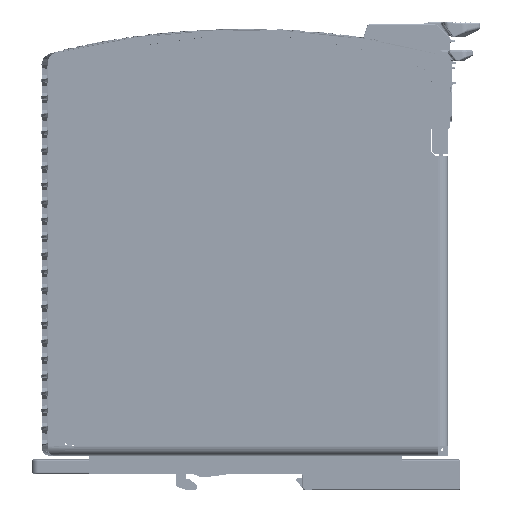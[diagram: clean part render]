
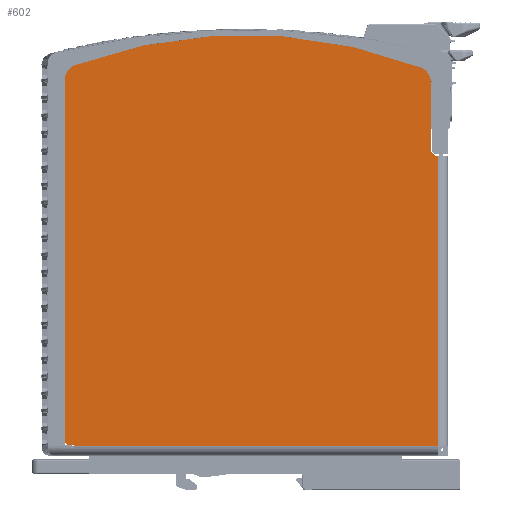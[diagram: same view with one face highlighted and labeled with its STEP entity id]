
A CAD part, left-side view. The second image highlights one B-rep face of the part: STEP entity #602.
In plain terms, the highlighted planar face has unit normal (-1, 0, 0).
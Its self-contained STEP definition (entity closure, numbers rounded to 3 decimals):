
#602 = ADVANCED_FACE ( 'NONE', ( #115159 ), #298570, .F. ) ;
#3580 = DIRECTION ( 'NONE',  ( -1., 0., 0. ) ) ;
#4079 = ORIENTED_EDGE ( 'NONE', *, *, #61273, .T. ) ;
#7399 = ORIENTED_EDGE ( 'NONE', *, *, #313589, .T. ) ;
#18518 = CARTESIAN_POINT ( 'NONE',  ( -39.5, -59., 3. ) ) ;
#19500 = DIRECTION ( 'NONE',  ( 0., 0., -1. ) ) ;
#29986 = CARTESIAN_POINT ( 'NONE',  ( -39.5, 49.9, 114.396 ) ) ;
#30647 = CARTESIAN_POINT ( 'NONE',  ( -39.5, 58.4, 0. ) ) ;
#34646 = ORIENTED_EDGE ( 'NONE', *, *, #253774, .T. ) ;
#37202 = EDGE_CURVE ( 'NONE', #190919, #263796, #272352, .T. ) ;
#44208 = VECTOR ( 'NONE', #281760, 1000. ) ;
#45240 = DIRECTION ( 'NONE',  ( 0., 0., 1. ) ) ;
#45453 = CARTESIAN_POINT ( 'NONE',  ( -39.5, 58.4, 3. ) ) ;
#49009 = ORIENTED_EDGE ( 'NONE', *, *, #262578, .T. ) ;
#56084 = CARTESIAN_POINT ( 'NONE',  ( -39.5, 51.9, 3.1 ) ) ;
#56514 = VERTEX_POINT ( 'NONE', #18518 ) ;
#57002 = VECTOR ( 'NONE', #194718, 1000. ) ;
#61273 = EDGE_CURVE ( 'NONE', #95357, #299473, #342374, .T. ) ;
#72591 = EDGE_CURVE ( 'NONE', #56514, #224239, #230293, .T. ) ;
#73395 = CARTESIAN_POINT ( 'NONE',  ( -39.5, -59., 3. ) ) ;
#74080 = DIRECTION ( 'NONE',  ( 0., 0., 1. ) ) ;
#74581 = EDGE_CURVE ( 'NONE', #302194, #299473, #98849, .T. ) ;
#75267 = ORIENTED_EDGE ( 'NONE', *, *, #37202, .T. ) ;
#75838 = CARTESIAN_POINT ( 'NONE',  ( -39.5, -51.85, 113.665 ) ) ;
#75871 = ORIENTED_EDGE ( 'NONE', *, *, #74581, .F. ) ;
#79404 = LINE ( 'NONE', #181624, #106111 ) ;
#86337 = DIRECTION ( 'NONE',  ( 0., 0., -1. ) ) ;
#87051 = VERTEX_POINT ( 'NONE', #235349 ) ;
#87445 = AXIS2_PLACEMENT_3D ( 'NONE', #110419, #272590, #217926 ) ;
#88601 = VECTOR ( 'NONE', #45240, 1000. ) ;
#94993 = VECTOR ( 'NONE', #74080, 1000. ) ;
#95357 = VERTEX_POINT ( 'NONE', #290420 ) ;
#97102 = CARTESIAN_POINT ( 'NONE',  ( -39.5, 51.9, 3.1 ) ) ;
#98849 = LINE ( 'NONE', #97102, #348165 ) ;
#100885 = CARTESIAN_POINT ( 'NONE',  ( -39.5, 54.9, 4.1 ) ) ;
#103300 = AXIS2_PLACEMENT_3D ( 'NONE', #75838, #176361, #19500 ) ;
#103962 = CARTESIAN_POINT ( 'NONE',  ( -39.5, -56.85, 113.665 ) ) ;
#106111 = VECTOR ( 'NONE', #130525, 1000. ) ;
#110419 = CARTESIAN_POINT ( 'NONE',  ( -39.5, 0., -21.748 ) ) ;
#113663 = CARTESIAN_POINT ( 'NONE',  ( -39.5, -58.25, 91.4 ) ) ;
#115159 = FACE_OUTER_BOUND ( 'NONE', #219252, .T. ) ;
#129108 = VECTOR ( 'NONE', #152321, 1000. ) ;
#130525 = DIRECTION ( 'NONE',  ( 0., 0., 1. ) ) ;
#132412 = CIRCLE ( 'NONE', #87445, 150. ) ;
#133245 = VERTEX_POINT ( 'NONE', #226737 ) ;
#136375 = DIRECTION ( 'NONE',  ( 0., 0., -1. ) ) ;
#139755 = ORIENTED_EDGE ( 'NONE', *, *, #220196, .T. ) ;
#140129 = EDGE_CURVE ( 'NONE', #173865, #302194, #79404, .T. ) ;
#143074 = VECTOR ( 'NONE', #208354, 1000. ) ;
#145415 = LINE ( 'NONE', #150593, #129108 ) ;
#147396 = CARTESIAN_POINT ( 'NONE',  ( -39.5, -59., 91.4 ) ) ;
#150593 = CARTESIAN_POINT ( 'NONE',  ( -39.5, -58.25, 91.4 ) ) ;
#152321 = DIRECTION ( 'NONE',  ( 0., 1., 0. ) ) ;
#158590 = CARTESIAN_POINT ( 'NONE',  ( -39.5, -56.85, 113.665 ) ) ;
#159903 = CARTESIAN_POINT ( 'NONE',  ( -39.5, -56.85, 92.8 ) ) ;
#163810 = CARTESIAN_POINT ( 'NONE',  ( -39.5, 51.9, 3. ) ) ;
#167438 = CARTESIAN_POINT ( 'NONE',  ( -39.5, 54.9, 114.396 ) ) ;
#167948 = ORIENTED_EDGE ( 'NONE', *, *, #227189, .T. ) ;
#171059 = ORIENTED_EDGE ( 'NONE', *, *, #140129, .F. ) ;
#171708 = ORIENTED_EDGE ( 'NONE', *, *, #185138, .T. ) ;
#173865 = VERTEX_POINT ( 'NONE', #163810 ) ;
#176361 = DIRECTION ( 'NONE',  ( -1., 0., 0. ) ) ;
#181624 = CARTESIAN_POINT ( 'NONE',  ( -39.5, 51.9, 3.1 ) ) ;
#185138 = EDGE_CURVE ( 'NONE', #263796, #253283, #266165, .T. ) ;
#190919 = VERTEX_POINT ( 'NONE', #237268 ) ;
#193135 = CIRCLE ( 'NONE', #103300, 5. ) ;
#194718 = DIRECTION ( 'NONE',  ( 0., 0.707, 0.707 ) ) ;
#208354 = DIRECTION ( 'NONE',  ( 0., -0.707, -0.707 ) ) ;
#217926 = DIRECTION ( 'NONE',  ( 0., 0., -1. ) ) ;
#219252 = EDGE_LOOP ( 'NONE', ( #308803, #7399, #75267, #171708, #34646, #320082, #167948, #139755, #4079, #75871, #171059, #49009 ) ) ;
#220196 = EDGE_CURVE ( 'NONE', #87051, #95357, #252041, .T. ) ;
#220911 = DIRECTION ( 'NONE',  ( 1., 0., 0. ) ) ;
#224239 = VERTEX_POINT ( 'NONE', #147396 ) ;
#226737 = CARTESIAN_POINT ( 'NONE',  ( -39.5, -53.638, 118.334 ) ) ;
#227189 = EDGE_CURVE ( 'NONE', #278729, #87051, #252432, .T. ) ;
#230293 = LINE ( 'NONE', #73395, #88601 ) ;
#235349 = CARTESIAN_POINT ( 'NONE',  ( -39.5, 54.9, 114.396 ) ) ;
#237268 = CARTESIAN_POINT ( 'NONE',  ( -39.5, -58.25, 91.4 ) ) ;
#252041 = LINE ( 'NONE', #167438, #340776 ) ;
#252432 = CIRCLE ( 'NONE', #348247, 5. ) ;
#253283 = VERTEX_POINT ( 'NONE', #103962 ) ;
#253774 = EDGE_CURVE ( 'NONE', #253283, #133245, #193135, .T. ) ;
#259745 = AXIS2_PLACEMENT_3D ( 'NONE', #30647, #220911, #136375 ) ;
#262578 = EDGE_CURVE ( 'NONE', #173865, #56514, #274805, .T. ) ;
#263796 = VERTEX_POINT ( 'NONE', #159903 ) ;
#266165 = LINE ( 'NONE', #158590, #94993 ) ;
#272352 = LINE ( 'NONE', #113663, #57002 ) ;
#272590 = DIRECTION ( 'NONE',  ( -1., 0., 0. ) ) ;
#274805 = LINE ( 'NONE', #45453, #44208 ) ;
#278524 = DIRECTION ( 'NONE',  ( 0., 0., -1. ) ) ;
#278729 = VERTEX_POINT ( 'NONE', #314951 ) ;
#281760 = DIRECTION ( 'NONE',  ( 0., -1., 0. ) ) ;
#282504 = EDGE_CURVE ( 'NONE', #133245, #278729, #132412, .T. ) ;
#287431 = DIRECTION ( 'NONE',  ( 0., 1., 0. ) ) ;
#290420 = CARTESIAN_POINT ( 'NONE',  ( -39.5, 54.9, 4.1 ) ) ;
#295114 = CARTESIAN_POINT ( 'NONE',  ( -39.5, 53.9, 3.1 ) ) ;
#298570 = PLANE ( 'NONE',  #259745 ) ;
#299473 = VERTEX_POINT ( 'NONE', #295114 ) ;
#302194 = VERTEX_POINT ( 'NONE', #56084 ) ;
#308803 = ORIENTED_EDGE ( 'NONE', *, *, #72591, .T. ) ;
#313589 = EDGE_CURVE ( 'NONE', #224239, #190919, #145415, .T. ) ;
#314951 = CARTESIAN_POINT ( 'NONE',  ( -39.5, 51.621, 119.09 ) ) ;
#320082 = ORIENTED_EDGE ( 'NONE', *, *, #282504, .T. ) ;
#340776 = VECTOR ( 'NONE', #278524, 1000. ) ;
#342374 = LINE ( 'NONE', #100885, #143074 ) ;
#348165 = VECTOR ( 'NONE', #287431, 1000. ) ;
#348247 = AXIS2_PLACEMENT_3D ( 'NONE', #29986, #3580, #86337 ) ;
